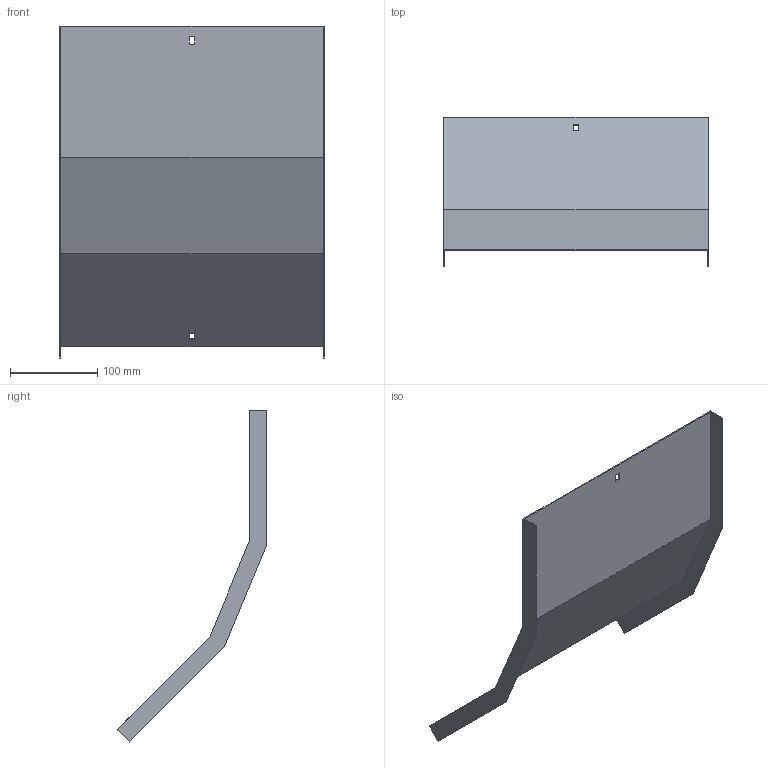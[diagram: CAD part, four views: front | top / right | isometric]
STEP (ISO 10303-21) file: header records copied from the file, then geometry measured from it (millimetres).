
FILE_DESCRIPTION (( 'STEP AP214' ), '1' );
FILE_NAME ('A2X31N3R300X.step', '2025-03-20T09:41:03', ( '' ), ( '' ), 'SwSTEP 2.0', 'SolidWorks 2023', '' );
FILE_SCHEMA (( 'AUTOMOTIVE_DESIGN' ));
Length unit declared in the file: millimetre
Products named in the file (1): A2X31N3R300X
Bounding box: 303 x 171.43 x 379.72 mm (x, y, z)
Volume: 214005.4 mm3; surface area: 287755 mm2
Topology: 1 solids, 1 shells, 26 faces, 72 edges, 48 vertices
Faces by surface type: plane 26
Entity records: 847 total; most frequent: CARTESIAN_POINT 147, ORIENTED_EDGE 144, DIRECTION 126, VECTOR 72, EDGE_CURVE 72, LINE 72, VERTEX_POINT 48, EDGE_LOOP 30
